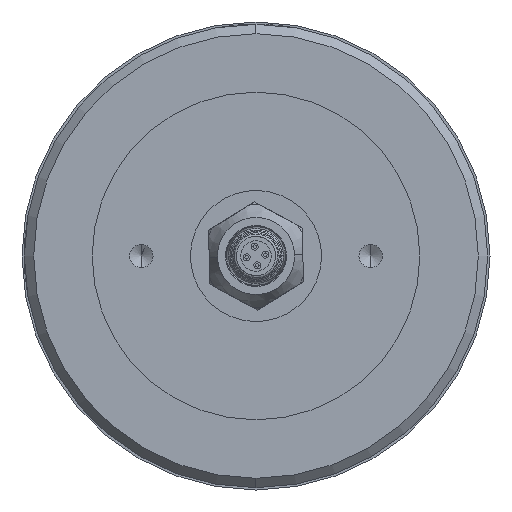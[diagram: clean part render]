
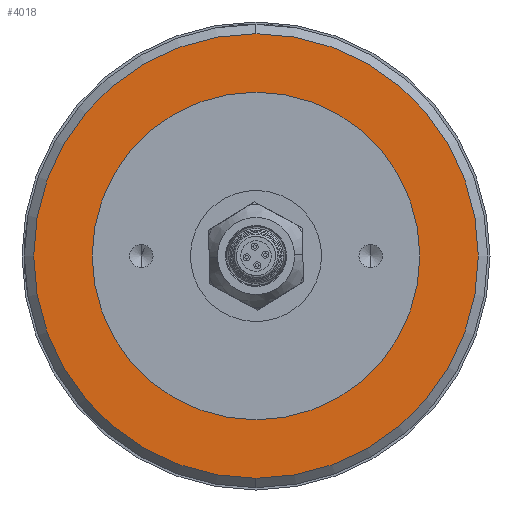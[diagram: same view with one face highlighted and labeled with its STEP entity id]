
A CAD part, left-side view. The second image highlights one B-rep face of the part: STEP entity #4018.
In plain terms, the highlighted planar face has unit normal (-1, 0, 0) as drawn and (1, 0, 0) by its records, which use the part's own axes.
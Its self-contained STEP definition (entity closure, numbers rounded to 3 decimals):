
#101 = AXIS2_PLACEMENT_3D ( 'NONE', #5506, #7940, #14533 ) ;
#133 = CARTESIAN_POINT ( 'NONE',  ( -16.577, 0., -35. ) ) ;
#214 = VERTEX_POINT ( 'NONE', #133 ) ;
#972 = DIRECTION ( 'NONE',  ( 1., 0., 0. ) ) ;
#1064 = ORIENTED_EDGE ( 'NONE', *, *, #2877, .T. ) ;
#2877 = EDGE_CURVE ( 'NONE', #7397, #9671, #4165, .T. ) ;
#3995 = CARTESIAN_POINT ( 'NONE',  ( -16.577, 0., -47.5 ) ) ;
#4017 = AXIS2_PLACEMENT_3D ( 'NONE', #7266, #11853, #9575 ) ;
#4018 = ADVANCED_FACE ( 'NONE', ( #10080, #14584 ), #8805, .T. ) ;
#4165 = CIRCLE ( 'NONE', #12702, 47.5 ) ;
#4369 = EDGE_CURVE ( 'NONE', #214, #12017, #6438, .T. ) ;
#5349 = CARTESIAN_POINT ( 'NONE',  ( -16.577, 0., 47.5 ) ) ;
#5380 = DIRECTION ( 'NONE',  ( 1., 0., 0. ) ) ;
#5480 = DIRECTION ( 'NONE',  ( 0., 0., -1. ) ) ;
#5506 = CARTESIAN_POINT ( 'NONE',  ( -16.577, 0., 0. ) ) ;
#5568 = ORIENTED_EDGE ( 'NONE', *, *, #4369, .F. ) ;
#6438 = CIRCLE ( 'NONE', #101, 35. ) ;
#6740 = DIRECTION ( 'NONE',  ( 0., 0., -1. ) ) ;
#6978 = EDGE_CURVE ( 'NONE', #9671, #7397, #10034, .T. ) ;
#7266 = CARTESIAN_POINT ( 'NONE',  ( -16.577, 0., 0. ) ) ;
#7397 = VERTEX_POINT ( 'NONE', #3995 ) ;
#7698 = CARTESIAN_POINT ( 'NONE',  ( -16.577, 0., -35. ) ) ;
#7912 = CARTESIAN_POINT ( 'NONE',  ( -16.577, 0., 0. ) ) ;
#7940 = DIRECTION ( 'NONE',  ( 1., 0., 0. ) ) ;
#8612 = ORIENTED_EDGE ( 'NONE', *, *, #11537, .F. ) ;
#8751 = CIRCLE ( 'NONE', #4017, 35. ) ;
#8805 = PLANE ( 'NONE',  #9285 ) ;
#9008 = CARTESIAN_POINT ( 'NONE',  ( -16.577, 0., 0. ) ) ;
#9079 = AXIS2_PLACEMENT_3D ( 'NONE', #9008, #5380, #13231 ) ;
#9166 = CARTESIAN_POINT ( 'NONE',  ( -16.577, 0., 35. ) ) ;
#9285 = AXIS2_PLACEMENT_3D ( 'NONE', #7698, #12219, #5480 ) ;
#9575 = DIRECTION ( 'NONE',  ( 0., 0., -1. ) ) ;
#9671 = VERTEX_POINT ( 'NONE', #5349 ) ;
#10034 = CIRCLE ( 'NONE', #9079, 47.5 ) ;
#10053 = EDGE_LOOP ( 'NONE', ( #13064, #1064 ) ) ;
#10080 = FACE_OUTER_BOUND ( 'NONE', #10053, .T. ) ;
#10997 = EDGE_LOOP ( 'NONE', ( #5568, #8612 ) ) ;
#11537 = EDGE_CURVE ( 'NONE', #12017, #214, #8751, .T. ) ;
#11853 = DIRECTION ( 'NONE',  ( 1., 0., 0. ) ) ;
#12017 = VERTEX_POINT ( 'NONE', #9166 ) ;
#12219 = DIRECTION ( 'NONE',  ( 1., 0., 0. ) ) ;
#12702 = AXIS2_PLACEMENT_3D ( 'NONE', #7912, #972, #6740 ) ;
#13064 = ORIENTED_EDGE ( 'NONE', *, *, #6978, .T. ) ;
#13231 = DIRECTION ( 'NONE',  ( 0., 0., -1. ) ) ;
#14533 = DIRECTION ( 'NONE',  ( 0., 0., -1. ) ) ;
#14584 = FACE_BOUND ( 'NONE', #10997, .T. ) ;
